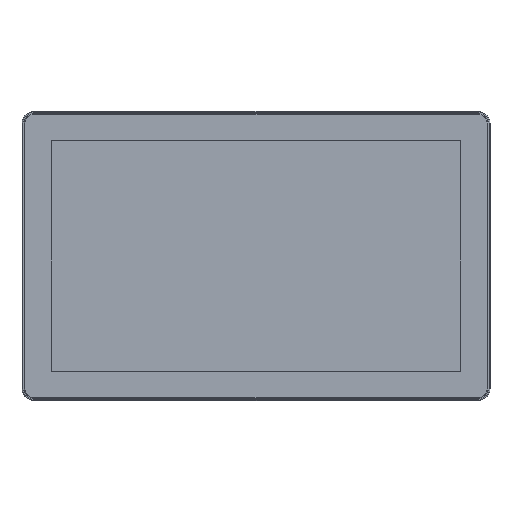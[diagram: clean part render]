
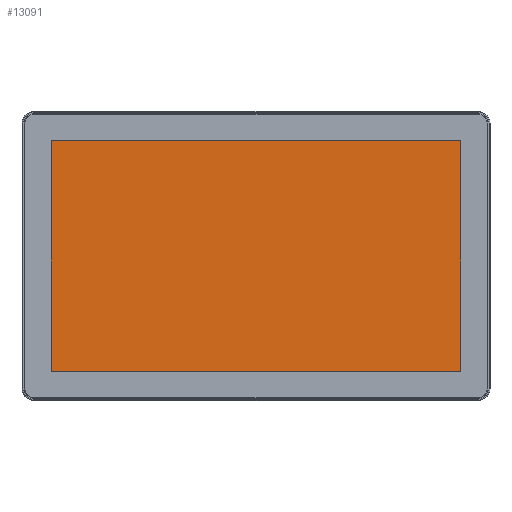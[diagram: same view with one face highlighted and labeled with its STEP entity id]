
A CAD part, top view. The second image highlights one B-rep face of the part: STEP entity #13091.
In plain terms, the highlighted planar face has unit normal (0, 0, 1).
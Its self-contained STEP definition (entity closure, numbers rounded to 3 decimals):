
#8671 = CARTESIAN_POINT ( 'NONE',  ( -172.615, 97.27, 0. ) ) ;
#12162 = CARTESIAN_POINT ( 'NONE',  ( -172.615, -97.27, 0. ) ) ;
#13091 = ADVANCED_FACE ( 'NONE', ( #152958 ), #59675, .F. ) ;
#18708 = DIRECTION ( 'NONE',  ( 0., 0., -1. ) ) ;
#27082 = VECTOR ( 'NONE', #103722, 1000. ) ;
#30976 = EDGE_CURVE ( 'NONE', #114564, #119657, #132521, .T. ) ;
#31759 = DIRECTION ( 'NONE',  ( -1., 0., 0. ) ) ;
#32161 = LINE ( 'NONE', #46953, #170993 ) ;
#46953 = CARTESIAN_POINT ( 'NONE',  ( 172.615, -97.27, 0. ) ) ;
#51911 = EDGE_CURVE ( 'NONE', #119657, #101710, #32161, .T. ) ;
#55040 = EDGE_CURVE ( 'NONE', #74969, #114564, #74392, .T. ) ;
#56918 = EDGE_LOOP ( 'NONE', ( #138607, #114076, #155739, #64709 ) ) ;
#59675 = PLANE ( 'NONE',  #153646 ) ;
#64709 = ORIENTED_EDGE ( 'NONE', *, *, #55040, .T. ) ;
#72314 = DIRECTION ( 'NONE',  ( 0., 1., 0. ) ) ;
#74392 = LINE ( 'NONE', #111945, #160042 ) ;
#74969 = VERTEX_POINT ( 'NONE', #82065 ) ;
#82065 = CARTESIAN_POINT ( 'NONE',  ( -172.615, 97.27, 0. ) ) ;
#91238 = CARTESIAN_POINT ( 'NONE',  ( 172.615, -97.27, 0. ) ) ;
#98837 = DIRECTION ( 'NONE',  ( 0., -1., 0. ) ) ;
#101710 = VERTEX_POINT ( 'NONE', #149366 ) ;
#103722 = DIRECTION ( 'NONE',  ( 1., 0., 0. ) ) ;
#111945 = CARTESIAN_POINT ( 'NONE',  ( -172.615, -97.27, 0. ) ) ;
#114076 = ORIENTED_EDGE ( 'NONE', *, *, #51911, .T. ) ;
#114564 = VERTEX_POINT ( 'NONE', #155380 ) ;
#117695 = DIRECTION ( 'NONE',  ( -1., 0., 0. ) ) ;
#119657 = VERTEX_POINT ( 'NONE', #91238 ) ;
#120128 = EDGE_CURVE ( 'NONE', #101710, #74969, #129055, .T. ) ;
#129055 = LINE ( 'NONE', #8671, #145856 ) ;
#132521 = LINE ( 'NONE', #12162, #27082 ) ;
#138607 = ORIENTED_EDGE ( 'NONE', *, *, #30976, .T. ) ;
#145856 = VECTOR ( 'NONE', #117695, 1000. ) ;
#149366 = CARTESIAN_POINT ( 'NONE',  ( 172.615, 97.27, 0. ) ) ;
#152958 = FACE_OUTER_BOUND ( 'NONE', #56918, .T. ) ;
#153646 = AXIS2_PLACEMENT_3D ( 'NONE', #165219, #18708, #31759 ) ;
#155380 = CARTESIAN_POINT ( 'NONE',  ( -172.615, -97.27, 0. ) ) ;
#155739 = ORIENTED_EDGE ( 'NONE', *, *, #120128, .T. ) ;
#160042 = VECTOR ( 'NONE', #98837, 1000. ) ;
#165219 = CARTESIAN_POINT ( 'NONE',  ( -187.5, -112., 0. ) ) ;
#170993 = VECTOR ( 'NONE', #72314, 1000. ) ;
